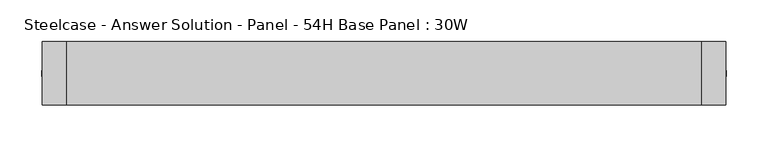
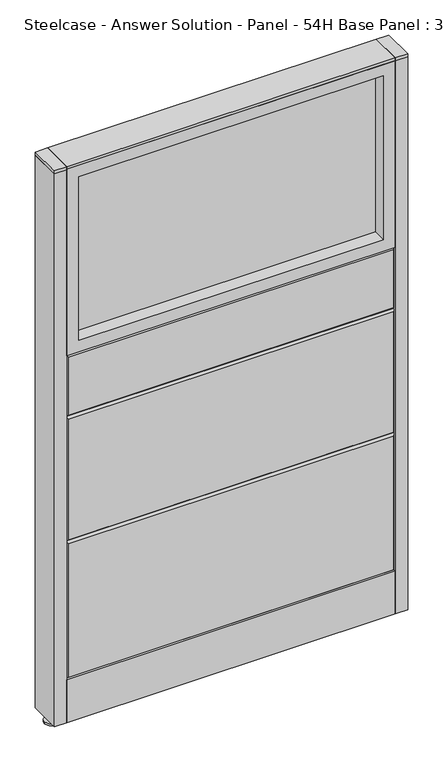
"""IFC4 building model written with IfcOpenShell, lengths in millimetres: furniture geometry, Steelcase - Answer Solution - Panel - 54H Base Panel : 30W."""

from ifc_helpers import new_model, si_unit, point, frame, frame_2d, origin, place, context, project, spatial, polyline, circle_curve, trimmed, segment, composite_curve, outline, extrude, faceted_brep, source, transform, mapped, element, save


def steelcase_answer_solution_panel_54h_base_panel_30w_a31ea038(model_context):
    return source(origin(), model_context, "Body", "SolidModel", [
        extrude(outline(composite_curve([segment(trimmed(circle_curve(frame_2d((395.224, 0.0320214)), 5.08), [point((400.304, 0.0320214))], [point((390.144, 0.0320214))], False, "CARTESIAN"), True, "CONTINUOUS"), segment(trimmed(circle_curve(frame_2d((395.224, 0.0320214)), 5.08), [point((390.144, 0.0320214))], [point((400.304, 0.0320214))], False, "CARTESIAN"), True, "CONTINUOUS")], self_intersect=False)), frame((0.0, 0.0, 5.0799671), z_axis=(0.0, 0.0, 1.0), x_axis=(1.0, 0.0, 0.0)), (0.0, 0.0, 1.0), 10.414),
        extrude(outline(composite_curve([segment(trimmed(circle_curve(frame_2d((395.224, 0.0320214)), 15.24), [point((410.464, 0.0320214))], [point((379.984, 0.0320214))], False, "CARTESIAN"), True, "CONTINUOUS"), segment(trimmed(circle_curve(frame_2d((395.224, 0.0320214)), 15.24), [point((379.984, 0.0320214))], [point((410.464, 0.0320214))], False, "CARTESIAN"), True, "CONTINUOUS")], self_intersect=False)), frame((0.0, 0.0, -3.29e-05), z_axis=(0.0, 0.0, 1.0), x_axis=(1.0, 0.0, 0.0)), (0.0, 0.0, 1.0), 5.08),
        extrude(outline(polyline([(409.575, 38.1320408), (409.575, -38.0679592), (381.0, -38.0679592), (381.0, 38.1320408), (409.575, 38.1320408)])), frame((0.0, 0.0, 1370.6348), z_axis=(0.0, 0.0, 1.0), x_axis=(1.0, 0.0, 0.0)), (0.0, 0.0, 1.0), 7.3151671),
        extrude(outline(polyline([(409.575, 38.1320408), (409.575, -38.0679592), (381.0, -38.0679592), (381.0, 38.1320408), (409.575, 38.1320408)])), frame((0.0, 0.0, 15.4939671), z_axis=(0.0, 0.0, 1.0), x_axis=(1.0, 0.0, 0.0)), (0.0, 0.0, 1.0), 1355.1408329),
        extrude(outline(composite_curve([segment(trimmed(circle_curve(frame_2d((-395.224, 0.0320214)), 5.08), [point((-400.304, 0.0320214))], [point((-390.144, 0.0320214))], False, "CARTESIAN"), True, "CONTINUOUS"), segment(trimmed(circle_curve(frame_2d((-395.224, 0.0320214)), 5.08), [point((-390.144, 0.0320214))], [point((-400.304, 0.0320214))], False, "CARTESIAN"), True, "CONTINUOUS")], self_intersect=False)), frame((0.0, 0.0, 5.0799671), z_axis=(0.0, 0.0, 1.0), x_axis=(1.0, 0.0, 0.0)), (0.0, 0.0, 1.0), 10.414),
        extrude(outline(composite_curve([segment(trimmed(circle_curve(frame_2d((-395.224, 0.0320214)), 15.24), [point((-410.464, 0.0320214))], [point((-379.984, 0.0320214))], False, "CARTESIAN"), True, "CONTINUOUS"), segment(trimmed(circle_curve(frame_2d((-395.224, 0.0320214)), 15.24), [point((-379.984, 0.0320214))], [point((-410.464, 0.0320214))], False, "CARTESIAN"), True, "CONTINUOUS")], self_intersect=False)), frame((0.0, 0.0, -3.29e-05), z_axis=(0.0, 0.0, 1.0), x_axis=(1.0, 0.0, 0.0)), (0.0, 0.0, 1.0), 5.08),
        extrude(outline(polyline([(-409.575, 38.1320408), (-381.0, 38.1320408), (-381.0, -38.0679592), (-409.575, -38.0679592), (-409.575, 38.1320408)])), frame((0.0, 0.0, 1370.6348), z_axis=(0.0, 0.0, 1.0), x_axis=(1.0, 0.0, 0.0)), (0.0, 0.0, 1.0), 7.3151671),
        extrude(outline(polyline([(-409.575, 38.1320408), (-381.0, 38.1320408), (-381.0, -38.0679592), (-409.575, -38.0679592), (-409.575, 38.1320408)])), frame((0.0, 0.0, 15.4939671), z_axis=(0.0, 0.0, 1.0), x_axis=(1.0, 0.0, 0.0)), (0.0, 0.0, 1.0), 1355.1408329),
        extrude(outline(polyline([(-353.06, 6.346049), (353.06, 6.346049), (353.06, -6.353951), (-353.06, -6.353951), (-353.06, 6.346049)])), frame((0.0, 0.0, 942.34), z_axis=(0.0, 0.0, 1.0), x_axis=(1.0, 0.0, 0.0)), (0.0, 0.0, 1.0), 401.32),
        extrude(outline(polyline([(1371.6, -381.0), (914.4, -381.0), (914.4, 381.0), (1371.6, 381.0), (1371.6, -381.0)]), holes=[polyline([(1343.66, -353.06), (1343.66, 353.06), (942.34, 353.06), (942.34, -353.06), (1343.66, -353.06)])]), frame((0.0, -38.103951, 0.0), z_axis=(0.0, 1.0, 0.0), x_axis=(0.0, 0.0, 1.0)), (0.0, 0.0, 1.0), 76.2),
        faceted_brep([(-376.174, 38.1635011, 909.574), (376.174, 38.1635011, 909.574), (376.174, 38.1635011, 766.826), (-376.174, 38.1635011, 766.826), (-381.0, 33.3375011, 914.4), (-381.0, 33.3375011, 762.0), (381.0, 33.3375011, 762.0), (381.0, 33.3375011, 914.4)], [[[0, 1, 2, 3]], [[4, 5, 6, 7]], [[4, 7, 1, 0]], [[7, 6, 2, 1]], [[6, 5, 3, 2]], [[5, 4, 0, 3]]]),
        faceted_brep([(-376.174, 38.1635011, 757.174), (376.174, 38.1635011, 757.174), (376.174, 38.1635011, 462.026), (-376.174, 38.1635011, 462.026), (-381.0, 33.3375011, 762.0), (-381.0, 33.3375011, 457.2), (381.0, 33.3375011, 457.2), (381.0, 33.3375011, 762.0)], [[[0, 1, 2, 3]], [[4, 5, 6, 7]], [[4, 7, 1, 0]], [[7, 6, 2, 1]], [[6, 5, 3, 2]], [[5, 4, 0, 3]]]),
        faceted_brep([(-376.174, 38.1635011, 452.374), (376.174, 38.1635011, 452.374), (376.174, 38.1635011, 125.476), (-376.174, 38.1635011, 125.476), (-381.0, 33.3375011, 457.2), (-381.0, 33.3375011, 120.65), (381.0, 33.3375011, 120.65), (381.0, 33.3375011, 457.2)], [[[0, 1, 2, 3]], [[4, 5, 6, 7]], [[4, 7, 1, 0]], [[7, 6, 2, 1]], [[6, 5, 3, 2]], [[5, 4, 0, 3]]]),
        extrude(outline(polyline([(353.06, -6.346049), (-353.06, -6.346049), (-353.06, 6.353951), (353.06, 6.353951), (353.06, -6.346049)])), frame((0.0, 0.0, 942.34), z_axis=(0.0, 0.0, 1.0), x_axis=(1.0, 0.0, 0.0)), (0.0, 0.0, 1.0), 401.32),
        extrude(outline(polyline([(1371.6, 381.0), (1371.6, -381.0), (914.4, -381.0), (914.4, 381.0), (1371.6, 381.0)]), holes=[polyline([(1343.66, 353.06), (942.34, 353.06), (942.34, -353.06), (1343.66, -353.06), (1343.66, 353.06)])]), frame((0.0, -38.096049, 0.0), z_axis=(0.0, 1.0, 0.0), x_axis=(0.0, 0.0, 1.0)), (0.0, 0.0, 1.0), 76.2),
        faceted_brep([(376.174, -38.1635011, 909.574), (-376.174, -38.1635011, 909.574), (-376.174, -38.1635011, 766.826), (376.174, -38.1635011, 766.826), (381.0, -33.3375011, 914.4), (381.0, -33.3375011, 762.0), (-381.0, -33.3375011, 762.0), (-381.0, -33.3375011, 914.4)], [[[0, 1, 2, 3]], [[4, 5, 6, 7]], [[4, 7, 1, 0]], [[7, 6, 2, 1]], [[6, 5, 3, 2]], [[5, 4, 0, 3]]]),
        faceted_brep([(376.174, -38.1635011, 757.174), (-376.174, -38.1635011, 757.174), (-376.174, -38.1635011, 462.026), (376.174, -38.1635011, 462.026), (381.0, -33.3375011, 762.0), (381.0, -33.3375011, 457.2), (-381.0, -33.3375011, 457.2), (-381.0, -33.3375011, 762.0)], [[[0, 1, 2, 3]], [[4, 5, 6, 7]], [[4, 7, 1, 0]], [[7, 6, 2, 1]], [[6, 5, 3, 2]], [[5, 4, 0, 3]]]),
        faceted_brep([(376.174, -38.1635011, 452.374), (-376.174, -38.1635011, 452.374), (-376.174, -38.1635011, 125.476), (376.174, -38.1635011, 125.476), (381.0, -33.3375011, 457.2), (381.0, -33.3375011, 120.65), (-381.0, -33.3375011, 120.65), (-381.0, -33.3375011, 457.2)], [[[0, 1, 2, 3]], [[4, 5, 6, 7]], [[4, 7, 1, 0]], [[7, 6, 2, 1]], [[6, 5, 3, 2]], [[5, 4, 0, 3]]]),
        extrude(outline(polyline([(381.0, 38.1000194), (381.0, -38.1000194), (-381.0, -38.1000194), (-381.0, 38.1000194), (381.0, 38.1000194)])), frame((0.0, 0.0, 1371.6), z_axis=(0.0, 0.0, 1.0), x_axis=(1.0, 0.0, 0.0)), (0.0, 0.0, 1.0), 6.35),
        extrude(outline(polyline([(25.4000011, 119.8575157), (25.4000011, 120.65), (38.1000194, 120.65), (38.1000194, 15.494), (37.3075215, 15.494), (37.3075215, 119.8575157), (25.4000011, 119.8575157)])), frame((-381.0, 0.0, 0.0), z_axis=(1.0, 0.0, 0.0), x_axis=(0.0, 1.0, 0.0)), (0.0, 0.0, 1.0), 762.0),
        extrude(outline(polyline([(-25.4000011, 119.8575157), (-37.3075215, 119.8575157), (-37.3075215, 15.494), (-38.1000194, 15.494), (-38.1000194, 120.65), (-25.4000011, 120.65), (-25.4000011, 119.8575157)])), frame((-381.0, 0.0, 0.0), z_axis=(1.0, 0.0, 0.0), x_axis=(0.0, 1.0, 0.0)), (0.0, 0.0, 1.0), 762.0),
    ])


if __name__ == "__main__":
    model = new_model("IFC4")
    model_context = context("Model", 3, world=origin())
    ifc_project = project(units=[si_unit("LENGTHUNIT", "METRE", prefix="MILLI")], contexts=[model_context])
    site = spatial("IfcSite", under=ifc_project)
    building = spatial("IfcBuilding", under=site)
    placement = place(None, origin())
    steelcase_answer_solution_panel_54h_base_panel_30w_shape = steelcase_answer_solution_panel_54h_base_panel_30w_a31ea038(model_context)
    element("IfcFurniture", 1, ObjectType="Steelcase - Answer Solution - Panel - 54H Base Panel : 30W", at=placement, inside=building, context=model_context, shape_type="MappedRepresentation", body=[
        mapped(steelcase_answer_solution_panel_54h_base_panel_30w_shape, transform((0.0, 0.0, 0.0), x_axis=(1.0, 0.0, 0.0), y_axis=(0.0, 1.0, 0.0), z_axis=(0.0, 0.0, 1.0))),
    ])
    save(model, "model.ifc")
